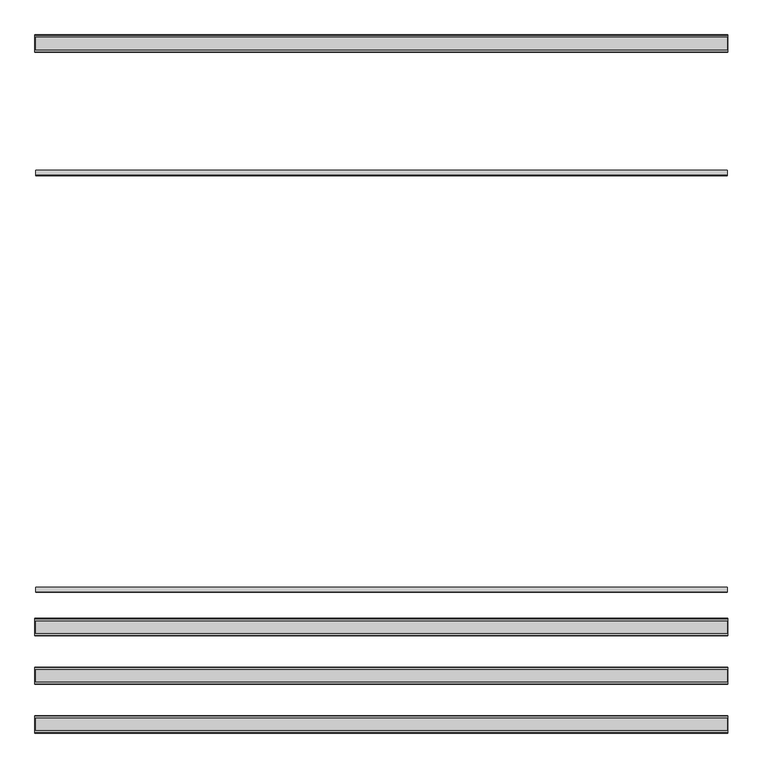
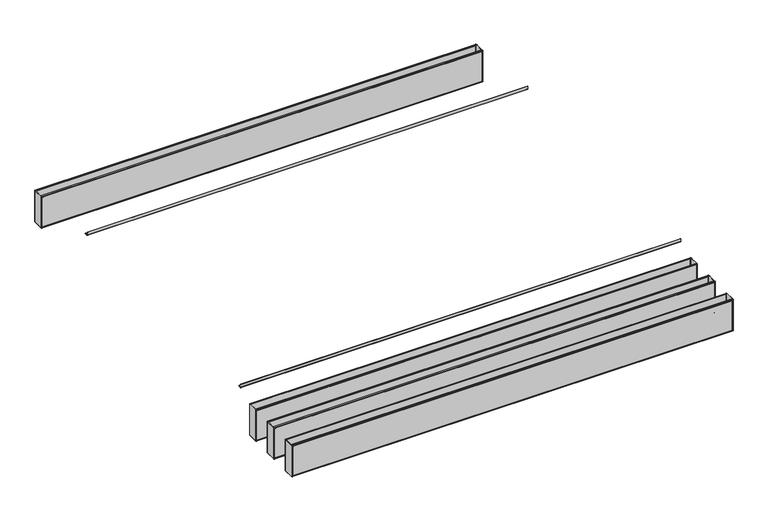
"""IFC4 building model written with IfcOpenShell, lengths in millimetres: proxy geometry, durlum_POLYLAM_KS : durlum_POLYLAM-KS/-S 100."""

from ifc_helpers import new_model, si_unit, point, frame, frame_2d, origin, place, context, project, spatial, polyline, circle_curve, trimmed, segment, composite_curve, outline, extrude, source, transform, mapped, element, save
from ifc_brep_helpers import plane_surface, cylinder_surface, advanced_brep


def generic_models_bf59cfc3(model_context):
    return source(origin(), model_context, "Body", "SolidModel", [
        extrude(outline(polyline([(1986.5, -1351.0), (-1986.5, -1351.0), (-1986.5, -1350.0), (1986.5, -1350.0), (1986.5, -1351.0)])), frame((0.0, 0.0, 2463.4464286), z_axis=(0.0, 0.0, 1.0), x_axis=(1.0, 0.0, 0.0)), (0.0, 0.0, 1.0), 283.0),
        extrude(outline(polyline([(1986.5, -1450.0), (-1986.5, -1450.0), (-1986.5, -1449.0), (1986.5, -1449.0), (1986.5, -1450.0)])), frame((0.0, 0.0, 2463.4464286), z_axis=(0.0, 0.0, 1.0), x_axis=(1.0, 0.0, 0.0)), (0.0, 0.0, 1.0), 283.0),
        extrude(outline(polyline([(1993.0, -1351.0), (1995.0, -1351.0), (1995.0, -1449.0), (1993.0, -1449.0), (1993.0, -1351.0)])), frame((0.0, 0.0, 2455.9464286), z_axis=(0.0, 0.0, 1.0), x_axis=(1.0, 0.0, 0.0)), (0.0, 0.0, 1.0), 298.1604454),
        extrude(outline(polyline([(-1995.0, -1351.0), (-1993.0, -1351.0), (-1993.0, -1449.0), (-1995.0, -1449.0), (-1995.0, -1351.0)])), frame((0.0, 0.0, 2455.9464286), z_axis=(0.0, 0.0, 1.0), x_axis=(1.0, 0.0, 0.0)), (0.0, 0.0, 1.0), 298.1604454),
        advanced_brep(
        [(1995.0, -1352.0, 2754.9464286), (1995.0, -1362.0, 2754.9464286), (1995.0, -1362.0, 2754.106874), (1995.0, -1351.0, 2754.106874), (1995.0, -1351.0, 2455.9464286), (1995.0, -1449.0, 2455.9464286), (1995.0, -1449.0, 2753.8620021), (1995.0, -1438.0, 2753.8620021), (1995.0, -1438.0, 2754.9464286), (1995.0, -1448.0, 2754.9464286), (1995.0, -1450.0, 2752.9464286), (1995.0, -1450.0, 2456.9464286), (1995.0, -1448.0, 2454.9464286), (1995.0, -1352.0, 2454.9464286), (1995.0, -1350.0, 2456.9464286), (1995.0, -1350.0, 2752.9464286), (-1995.0, -1352.0, 2754.9464286), (-1995.0, -1350.0, 2752.9464286), (-1995.0, -1350.0, 2456.9464286), (-1995.0, -1352.0, 2454.9464286), (-1995.0, -1448.0, 2454.9464286), (-1995.0, -1450.0, 2456.9464286), (-1995.0, -1450.0, 2752.9464286), (-1995.0, -1448.0, 2754.9464286), (-1995.0, -1438.0, 2754.9464286), (-1995.0, -1438.0, 2753.8620021), (-1995.0, -1449.0, 2753.8620021), (-1995.0, -1449.0, 2455.9464286), (-1995.0, -1351.0, 2455.9464286), (-1995.0, -1351.0, 2754.106874), (-1995.0, -1362.0, 2754.106874), (-1995.0, -1362.0, 2754.9464286), (-1986.5, -1351.0, 2746.4464286), (1986.5, -1351.0, 2746.4464286), (1986.5, -1351.0, 2463.4464286), (-1986.5, -1351.0, 2463.4464286), (1986.5, -1449.0, 2746.4464286), (-1986.5, -1449.0, 2746.4464286), (-1986.5, -1449.0, 2463.4464286), (1986.5, -1449.0, 2463.4464286), (-1986.5, -1450.0, 2746.4464286), (1986.5, -1450.0, 2746.4464286), (1986.5, -1450.0, 2463.4464286), (-1986.5, -1450.0, 2463.4464286), (1986.5, -1350.0, 2746.4464286), (-1986.5, -1350.0, 2746.4464286), (-1986.5, -1350.0, 2463.4464286), (1986.5, -1350.0, 2463.4464286)],
        [
            (0, 1),
            (1, 2),
            (2, 3),
            (3, 4),
            (4, 5),
            (5, 6),
            (6, 7),
            (7, 8),
            (8, 9),
            (9, 10, circle_curve(frame((1995.0, -1448.0, 2752.9464286), z_axis=(1.0, 0.0, 0.0), x_axis=(0.0, 1.0, 0.0)), 2.0)),
            (10, 11),
            (11, 12, circle_curve(frame((1995.0, -1448.0, 2456.9464286), z_axis=(1.0, 0.0, 0.0), x_axis=(0.0, 1.0, 0.0)), 2.0)),
            (12, 13),
            (13, 14, circle_curve(frame((1995.0, -1352.0, 2456.9464286), z_axis=(1.0, 0.0, 0.0), x_axis=(0.0, 1.0, 0.0)), 2.0)),
            (14, 15),
            (15, 0, circle_curve(frame((1995.0, -1352.0, 2752.9464286), z_axis=(1.0, 0.0, 0.0), x_axis=(0.0, 1.0, 0.0)), 2.0)),
            (16, 17, circle_curve(frame((-1995.0, -1352.0, 2752.9464286), z_axis=(-1.0, 0.0, 0.0), x_axis=(0.0, 1.0, 0.0)), 2.0)),
            (17, 18),
            (18, 19, circle_curve(frame((-1995.0, -1352.0, 2456.9464286), z_axis=(-1.0, 0.0, 0.0), x_axis=(0.0, 1.0, 0.0)), 2.0)),
            (19, 20),
            (20, 21, circle_curve(frame((-1995.0, -1448.0, 2456.9464286), z_axis=(-1.0, 0.0, 0.0), x_axis=(0.0, 1.0, 0.0)), 2.0)),
            (21, 22),
            (22, 23, circle_curve(frame((-1995.0, -1448.0, 2752.9464286), z_axis=(-1.0, 0.0, 0.0), x_axis=(0.0, 1.0, 0.0)), 2.0)),
            (23, 24),
            (24, 25),
            (25, 26),
            (26, 27),
            (27, 28),
            (28, 29),
            (29, 30),
            (30, 31),
            (31, 16),
            (0, 16),
            (31, 1),
            (30, 2),
            (29, 3),
            (28, 4),
            (32, 33),
            (33, 34),
            (34, 35),
            (35, 32),
            (27, 5),
            (26, 6),
            (36, 37),
            (37, 38),
            (38, 39),
            (39, 36),
            (25, 7),
            (24, 8),
            (23, 9),
            (10, 22),
            (21, 11),
            (40, 41),
            (41, 42),
            (42, 43),
            (43, 40),
            (12, 20),
            (19, 13),
            (14, 18),
            (17, 15),
            (44, 45),
            (45, 46),
            (46, 47),
            (47, 44),
            (44, 33),
            (32, 45),
            (36, 41),
            (40, 37),
            (35, 46),
            (43, 38),
            (34, 47),
            (42, 39),
        ],
        [
            plane_surface(frame((1995.0, -1362.0, 2754.9464286), z_axis=(1.0, 0.0, 0.0), x_axis=(0.0, -1.0, 0.0))),
            plane_surface(frame((-1995.0, -1362.0, 2754.9464286), z_axis=(-1.0, 0.0, 0.0), x_axis=(0.0, 1.0, 0.0))),
            plane_surface(frame((1995.0, -1352.0, 2754.9464286), z_axis=(0.0, 0.0, 1.0), x_axis=(-1.0, 0.0, 0.0))),
            plane_surface(frame((1995.0, -1362.0, 2754.9464286), z_axis=(0.0, -1.0, 0.0), x_axis=(-1.0, 0.0, 0.0))),
            plane_surface(frame((1995.0, -1362.0, 2754.106874), z_axis=(0.0, 0.0, -1.0), x_axis=(-1.0, 0.0, 0.0))),
            plane_surface(frame((1995.0, -1351.0, 2754.106874), z_axis=(0.0, -1.0, 0.0), x_axis=(-1.0, 0.0, 0.0))),
            plane_surface(frame((1995.0, -1351.0, 2455.9464286), z_axis=(0.0, 0.0, 1.0), x_axis=(-1.0, 0.0, 0.0))),
            plane_surface(frame((1995.0, -1449.0, 2455.9464286), z_axis=(0.0, 1.0, 0.0), x_axis=(-1.0, 0.0, 0.0))),
            plane_surface(frame((1995.0, -1449.0, 2753.8620021), z_axis=(0.0, 0.0, -1.0), x_axis=(-1.0, 0.0, 0.0))),
            plane_surface(frame((1995.0, -1438.0, 2753.8620021), z_axis=(0.0, 1.0, 0.0), x_axis=(-1.0, 0.0, 0.0))),
            plane_surface(frame((1995.0, -1438.0, 2754.9464286), z_axis=(0.0, 0.0, 1.0), x_axis=(-1.0, 0.0, 0.0))),
            plane_surface(frame((1995.0, -1450.0, 2752.9464286), z_axis=(0.0, -1.0, 0.0), x_axis=(-1.0, 0.0, 0.0))),
            plane_surface(frame((1995.0, -1448.0, 2454.9464286), z_axis=(0.0, 0.0, -1.0), x_axis=(-1.0, 0.0, 0.0))),
            plane_surface(frame((1995.0, -1350.0, 2456.9464286), z_axis=(0.0, 1.0, 0.0), x_axis=(-1.0, 0.0, 0.0))),
            cylinder_surface(frame((-1995.0, -1448.0, 2752.9464286), z_axis=(1.0, 0.0, 0.0), x_axis=(0.0, 1.0, 0.0)), 2.0),
            cylinder_surface(frame((-1995.0, -1448.0, 2456.9464286), z_axis=(1.0, 0.0, 0.0), x_axis=(0.0, 1.0, 0.0)), 2.0),
            cylinder_surface(frame((-1995.0, -1352.0, 2456.9464286), z_axis=(1.0, 0.0, 0.0), x_axis=(0.0, 1.0, 0.0)), 2.0),
            cylinder_surface(frame((-1995.0, -1352.0, 2752.9464286), z_axis=(1.0, 0.0, 0.0), x_axis=(0.0, 1.0, 0.0)), 2.0),
            plane_surface(frame((1986.5, -1450.0, 2746.4464286), z_axis=(0.0, 0.0, -1.0), x_axis=(0.0, 1.0, 0.0))),
            plane_surface(frame((-1986.5, -1450.0, 2746.4464286), z_axis=(1.0, 0.0, 0.0), x_axis=(0.0, 1.0, 0.0))),
            plane_surface(frame((-1986.5, -1450.0, 2463.4464286), z_axis=(0.0, 0.0, 1.0), x_axis=(0.0, 1.0, 0.0))),
            plane_surface(frame((1986.5, -1450.0, 2463.4464286), z_axis=(-1.0, 0.0, 0.0), x_axis=(0.0, 1.0, 0.0))),
        ],
        [
            (0, [[1, 2, 3, 4, 5, 6, 7, 8, 9, 10, 11, 12, 13, 14, 15, 16]]),
            (1, [[17, 18, 19, 20, 21, 22, 23, 24, 25, 26, 27, 28, 29, 30, 31, 32]]),
            (2, [[-1, 33, -32, 34]]),
            (3, [[-2, -34, -31, 35]]),
            (4, [[-3, -35, -30, 36]]),
            (5, [[-4, -36, -29, 37], [38, 39, 40, 41]]),
            (6, [[-5, -37, -28, 42]]),
            (7, [[-6, -42, -27, 43], [44, 45, 46, 47]]),
            (8, [[-7, -43, -26, 48]]),
            (9, [[-8, -48, -25, 49]]),
            (10, [[-9, -49, -24, 50]]),
            (11, [[-11, 51, -22, 52], [53, 54, 55, 56]]),
            (12, [[-13, 57, -20, 58]]),
            (13, [[-15, 59, -18, 60], [61, 62, 63, 64]]),
            (14, [[-10, -50, -23, -51]]),
            (15, [[-12, -52, -21, -57]]),
            (16, [[-14, -58, -19, -59]]),
            (17, [[-16, -60, -17, -33]]),
            (18, [[65, -38, 66, -61]]),
            (18, [[67, -53, 68, -44]]),
            (19, [[-66, -41, 69, -62]]),
            (19, [[-68, -56, 70, -45]]),
            (20, [[-69, -40, 71, -63]]),
            (20, [[-70, -55, 72, -46]]),
            (21, [[-65, -64, -71, -39]]),
            (21, [[-67, -47, -72, -54]]),
        ],
    ),
        extrude(outline(polyline([(1986.5, -1631.0), (-1986.5, -1631.0), (-1986.5, -1630.0), (1986.5, -1630.0), (1986.5, -1631.0)])), frame((0.0, 0.0, 2463.4464286), z_axis=(0.0, 0.0, 1.0), x_axis=(1.0, 0.0, 0.0)), (0.0, 0.0, 1.0), 283.0),
        extrude(outline(polyline([(1986.5, -1730.0), (-1986.5, -1730.0), (-1986.5, -1729.0), (1986.5, -1729.0), (1986.5, -1730.0)])), frame((0.0, 0.0, 2463.4464286), z_axis=(0.0, 0.0, 1.0), x_axis=(1.0, 0.0, 0.0)), (0.0, 0.0, 1.0), 283.0),
        extrude(outline(polyline([(1993.0, -1631.0), (1995.0, -1631.0), (1995.0, -1729.0), (1993.0, -1729.0), (1993.0, -1631.0)])), frame((0.0, 0.0, 2455.9464286), z_axis=(0.0, 0.0, 1.0), x_axis=(1.0, 0.0, 0.0)), (0.0, 0.0, 1.0), 298.1604454),
        extrude(outline(polyline([(-1995.0, -1631.0), (-1993.0, -1631.0), (-1993.0, -1729.0), (-1995.0, -1729.0), (-1995.0, -1631.0)])), frame((0.0, 0.0, 2455.9464286), z_axis=(0.0, 0.0, 1.0), x_axis=(1.0, 0.0, 0.0)), (0.0, 0.0, 1.0), 298.1604454),
        advanced_brep(
        [(1995.0, -1632.0, 2754.9464286), (1995.0, -1642.0, 2754.9464286), (1995.0, -1642.0, 2754.106874), (1995.0, -1631.0, 2754.106874), (1995.0, -1631.0, 2455.9464286), (1995.0, -1729.0, 2455.9464286), (1995.0, -1729.0, 2753.8620021), (1995.0, -1718.0, 2753.8620021), (1995.0, -1718.0, 2754.9464286), (1995.0, -1728.0, 2754.9464286), (1995.0, -1730.0, 2752.9464286), (1995.0, -1730.0, 2456.9464286), (1995.0, -1728.0, 2454.9464286), (1995.0, -1632.0, 2454.9464286), (1995.0, -1630.0, 2456.9464286), (1995.0, -1630.0, 2752.9464286), (-1995.0, -1632.0, 2754.9464286), (-1995.0, -1630.0, 2752.9464286), (-1995.0, -1630.0, 2456.9464286), (-1995.0, -1632.0, 2454.9464286), (-1995.0, -1728.0, 2454.9464286), (-1995.0, -1730.0, 2456.9464286), (-1995.0, -1730.0, 2752.9464286), (-1995.0, -1728.0, 2754.9464286), (-1995.0, -1718.0, 2754.9464286), (-1995.0, -1718.0, 2753.8620021), (-1995.0, -1729.0, 2753.8620021), (-1995.0, -1729.0, 2455.9464286), (-1995.0, -1631.0, 2455.9464286), (-1995.0, -1631.0, 2754.106874), (-1995.0, -1642.0, 2754.106874), (-1995.0, -1642.0, 2754.9464286), (-1986.5, -1631.0, 2746.4464286), (1986.5, -1631.0, 2746.4464286), (1986.5, -1631.0, 2463.4464286), (-1986.5, -1631.0, 2463.4464286), (1986.5, -1729.0, 2746.4464286), (-1986.5, -1729.0, 2746.4464286), (-1986.5, -1729.0, 2463.4464286), (1986.5, -1729.0, 2463.4464286), (-1986.5, -1730.0, 2746.4464286), (1986.5, -1730.0, 2746.4464286), (1986.5, -1730.0, 2463.4464286), (-1986.5, -1730.0, 2463.4464286), (1986.5, -1630.0, 2746.4464286), (-1986.5, -1630.0, 2746.4464286), (-1986.5, -1630.0, 2463.4464286), (1986.5, -1630.0, 2463.4464286)],
        [
            (0, 1),
            (1, 2),
            (2, 3),
            (3, 4),
            (4, 5),
            (5, 6),
            (6, 7),
            (7, 8),
            (8, 9),
            (9, 10, circle_curve(frame((1995.0, -1728.0, 2752.9464286), z_axis=(1.0, 0.0, 0.0), x_axis=(0.0, 1.0, 0.0)), 2.0)),
            (10, 11),
            (11, 12, circle_curve(frame((1995.0, -1728.0, 2456.9464286), z_axis=(1.0, 0.0, 0.0), x_axis=(0.0, 1.0, 0.0)), 2.0)),
            (12, 13),
            (13, 14, circle_curve(frame((1995.0, -1632.0, 2456.9464286), z_axis=(1.0, 0.0, 0.0), x_axis=(0.0, 1.0, 0.0)), 2.0)),
            (14, 15),
            (15, 0, circle_curve(frame((1995.0, -1632.0, 2752.9464286), z_axis=(1.0, 0.0, 0.0), x_axis=(0.0, 1.0, 0.0)), 2.0)),
            (16, 17, circle_curve(frame((-1995.0, -1632.0, 2752.9464286), z_axis=(-1.0, 0.0, 0.0), x_axis=(0.0, 1.0, 0.0)), 2.0)),
            (17, 18),
            (18, 19, circle_curve(frame((-1995.0, -1632.0, 2456.9464286), z_axis=(-1.0, 0.0, 0.0), x_axis=(0.0, 1.0, 0.0)), 2.0)),
            (19, 20),
            (20, 21, circle_curve(frame((-1995.0, -1728.0, 2456.9464286), z_axis=(-1.0, 0.0, 0.0), x_axis=(0.0, 1.0, 0.0)), 2.0)),
            (21, 22),
            (22, 23, circle_curve(frame((-1995.0, -1728.0, 2752.9464286), z_axis=(-1.0, 0.0, 0.0), x_axis=(0.0, 1.0, 0.0)), 2.0)),
            (23, 24),
            (24, 25),
            (25, 26),
            (26, 27),
            (27, 28),
            (28, 29),
            (29, 30),
            (30, 31),
            (31, 16),
            (0, 16),
            (31, 1),
            (30, 2),
            (29, 3),
            (28, 4),
            (32, 33),
            (33, 34),
            (34, 35),
            (35, 32),
            (27, 5),
            (26, 6),
            (36, 37),
            (37, 38),
            (38, 39),
            (39, 36),
            (25, 7),
            (24, 8),
            (23, 9),
            (10, 22),
            (21, 11),
            (40, 41),
            (41, 42),
            (42, 43),
            (43, 40),
            (12, 20),
            (19, 13),
            (14, 18),
            (17, 15),
            (44, 45),
            (45, 46),
            (46, 47),
            (47, 44),
            (44, 33),
            (32, 45),
            (36, 41),
            (40, 37),
            (35, 46),
            (43, 38),
            (34, 47),
            (42, 39),
        ],
        [
            plane_surface(frame((1995.0, -1642.0, 2754.9464286), z_axis=(1.0, 0.0, 0.0), x_axis=(0.0, -1.0, 0.0))),
            plane_surface(frame((-1995.0, -1642.0, 2754.9464286), z_axis=(-1.0, 0.0, 0.0), x_axis=(0.0, 1.0, 0.0))),
            plane_surface(frame((1995.0, -1632.0, 2754.9464286), z_axis=(0.0, 0.0, 1.0), x_axis=(-1.0, 0.0, 0.0))),
            plane_surface(frame((1995.0, -1642.0, 2754.9464286), z_axis=(0.0, -1.0, 0.0), x_axis=(-1.0, 0.0, 0.0))),
            plane_surface(frame((1995.0, -1642.0, 2754.106874), z_axis=(0.0, 0.0, -1.0), x_axis=(-1.0, 0.0, 0.0))),
            plane_surface(frame((1995.0, -1631.0, 2754.106874), z_axis=(0.0, -1.0, 0.0), x_axis=(-1.0, 0.0, 0.0))),
            plane_surface(frame((1995.0, -1631.0, 2455.9464286), z_axis=(0.0, 0.0, 1.0), x_axis=(-1.0, 0.0, 0.0))),
            plane_surface(frame((1995.0, -1729.0, 2455.9464286), z_axis=(0.0, 1.0, 0.0), x_axis=(-1.0, 0.0, 0.0))),
            plane_surface(frame((1995.0, -1729.0, 2753.8620021), z_axis=(0.0, 0.0, -1.0), x_axis=(-1.0, 0.0, 0.0))),
            plane_surface(frame((1995.0, -1718.0, 2753.8620021), z_axis=(0.0, 1.0, 0.0), x_axis=(-1.0, 0.0, 0.0))),
            plane_surface(frame((1995.0, -1718.0, 2754.9464286), z_axis=(0.0, 0.0, 1.0), x_axis=(-1.0, 0.0, 0.0))),
            plane_surface(frame((1995.0, -1730.0, 2752.9464286), z_axis=(0.0, -1.0, 0.0), x_axis=(-1.0, 0.0, 0.0))),
            plane_surface(frame((1995.0, -1728.0, 2454.9464286), z_axis=(0.0, 0.0, -1.0), x_axis=(-1.0, 0.0, 0.0))),
            plane_surface(frame((1995.0, -1630.0, 2456.9464286), z_axis=(0.0, 1.0, 0.0), x_axis=(-1.0, 0.0, 0.0))),
            cylinder_surface(frame((-1995.0, -1728.0, 2752.9464286), z_axis=(1.0, 0.0, 0.0), x_axis=(0.0, 1.0, 0.0)), 2.0),
            cylinder_surface(frame((-1995.0, -1728.0, 2456.9464286), z_axis=(1.0, 0.0, 0.0), x_axis=(0.0, 1.0, 0.0)), 2.0),
            cylinder_surface(frame((-1995.0, -1632.0, 2456.9464286), z_axis=(1.0, 0.0, 0.0), x_axis=(0.0, 1.0, 0.0)), 2.0),
            cylinder_surface(frame((-1995.0, -1632.0, 2752.9464286), z_axis=(1.0, 0.0, 0.0), x_axis=(0.0, 1.0, 0.0)), 2.0),
            plane_surface(frame((1986.5, -1730.0, 2746.4464286), z_axis=(0.0, 0.0, -1.0), x_axis=(0.0, 1.0, 0.0))),
            plane_surface(frame((-1986.5, -1730.0, 2746.4464286), z_axis=(1.0, 0.0, 0.0), x_axis=(0.0, 1.0, 0.0))),
            plane_surface(frame((-1986.5, -1730.0, 2463.4464286), z_axis=(0.0, 0.0, 1.0), x_axis=(0.0, 1.0, 0.0))),
            plane_surface(frame((1986.5, -1730.0, 2463.4464286), z_axis=(-1.0, 0.0, 0.0), x_axis=(0.0, 1.0, 0.0))),
        ],
        [
            (0, [[1, 2, 3, 4, 5, 6, 7, 8, 9, 10, 11, 12, 13, 14, 15, 16]]),
            (1, [[17, 18, 19, 20, 21, 22, 23, 24, 25, 26, 27, 28, 29, 30, 31, 32]]),
            (2, [[-1, 33, -32, 34]]),
            (3, [[-2, -34, -31, 35]]),
            (4, [[-3, -35, -30, 36]]),
            (5, [[-4, -36, -29, 37], [38, 39, 40, 41]]),
            (6, [[-5, -37, -28, 42]]),
            (7, [[-6, -42, -27, 43], [44, 45, 46, 47]]),
            (8, [[-7, -43, -26, 48]]),
            (9, [[-8, -48, -25, 49]]),
            (10, [[-9, -49, -24, 50]]),
            (11, [[-11, 51, -22, 52], [53, 54, 55, 56]]),
            (12, [[-13, 57, -20, 58]]),
            (13, [[-15, 59, -18, 60], [61, 62, 63, 64]]),
            (14, [[-10, -50, -23, -51]]),
            (15, [[-12, -52, -21, -57]]),
            (16, [[-14, -58, -19, -59]]),
            (17, [[-16, -60, -17, -33]]),
            (18, [[65, -38, 66, -61]]),
            (18, [[67, -53, 68, -44]]),
            (19, [[-66, -41, 69, -62]]),
            (19, [[-68, -56, 70, -45]]),
            (20, [[-69, -40, 71, -63]]),
            (20, [[-70, -55, 72, -46]]),
            (21, [[-65, -64, -71, -39]]),
            (21, [[-67, -47, -72, -54]]),
        ],
    ),
        extrude(outline(polyline([(1986.5, 2009.0), (-1986.5, 2009.0), (-1986.5, 2010.0), (1986.5, 2010.0), (1986.5, 2009.0)])), frame((0.0, 0.0, 2463.4464286), z_axis=(0.0, 0.0, 1.0), x_axis=(1.0, 0.0, 0.0)), (0.0, 0.0, 1.0), 283.0),
        extrude(outline(polyline([(1986.5, 1910.0), (-1986.5, 1910.0), (-1986.5, 1911.0), (1986.5, 1911.0), (1986.5, 1910.0)])), frame((0.0, 0.0, 2463.4464286), z_axis=(0.0, 0.0, 1.0), x_axis=(1.0, 0.0, 0.0)), (0.0, 0.0, 1.0), 283.0),
        extrude(outline(polyline([(1993.0, 2009.0), (1995.0, 2009.0), (1995.0, 1911.0), (1993.0, 1911.0), (1993.0, 2009.0)])), frame((0.0, 0.0, 2455.9464286), z_axis=(0.0, 0.0, 1.0), x_axis=(1.0, 0.0, 0.0)), (0.0, 0.0, 1.0), 298.1604454),
        extrude(outline(polyline([(-1995.0, 2009.0), (-1993.0, 2009.0), (-1993.0, 1911.0), (-1995.0, 1911.0), (-1995.0, 2009.0)])), frame((0.0, 0.0, 2455.9464286), z_axis=(0.0, 0.0, 1.0), x_axis=(1.0, 0.0, 0.0)), (0.0, 0.0, 1.0), 298.1604454),
        advanced_brep(
        [(1995.0, 2008.0, 2754.9464286), (1995.0, 1998.0, 2754.9464286), (1995.0, 1998.0, 2754.106874), (1995.0, 2009.0, 2754.106874), (1995.0, 2009.0, 2455.9464286), (1995.0, 1911.0, 2455.9464286), (1995.0, 1911.0, 2753.8620021), (1995.0, 1922.0, 2753.8620021), (1995.0, 1922.0, 2754.9464286), (1995.0, 1912.0, 2754.9464286), (1995.0, 1910.0, 2752.9464286), (1995.0, 1910.0, 2456.9464286), (1995.0, 1912.0, 2454.9464286), (1995.0, 2008.0, 2454.9464286), (1995.0, 2010.0, 2456.9464286), (1995.0, 2010.0, 2752.9464286), (-1995.0, 2008.0, 2754.9464286), (-1995.0, 2010.0, 2752.9464286), (-1995.0, 2010.0, 2456.9464286), (-1995.0, 2008.0, 2454.9464286), (-1995.0, 1912.0, 2454.9464286), (-1995.0, 1910.0, 2456.9464286), (-1995.0, 1910.0, 2752.9464286), (-1995.0, 1912.0, 2754.9464286), (-1995.0, 1922.0, 2754.9464286), (-1995.0, 1922.0, 2753.8620021), (-1995.0, 1911.0, 2753.8620021), (-1995.0, 1911.0, 2455.9464286), (-1995.0, 2009.0, 2455.9464286), (-1995.0, 2009.0, 2754.106874), (-1995.0, 1998.0, 2754.106874), (-1995.0, 1998.0, 2754.9464286), (-1986.5, 2009.0, 2746.4464286), (1986.5, 2009.0, 2746.4464286), (1986.5, 2009.0, 2463.4464286), (-1986.5, 2009.0, 2463.4464286), (1986.5, 1911.0, 2746.4464286), (-1986.5, 1911.0, 2746.4464286), (-1986.5, 1911.0, 2463.4464286), (1986.5, 1911.0, 2463.4464286), (-1986.5, 1910.0, 2746.4464286), (1986.5, 1910.0, 2746.4464286), (1986.5, 1910.0, 2463.4464286), (-1986.5, 1910.0, 2463.4464286), (1986.5, 2010.0, 2746.4464286), (-1986.5, 2010.0, 2746.4464286), (-1986.5, 2010.0, 2463.4464286), (1986.5, 2010.0, 2463.4464286)],
        [
            (0, 1),
            (1, 2),
            (2, 3),
            (3, 4),
            (4, 5),
            (5, 6),
            (6, 7),
            (7, 8),
            (8, 9),
            (9, 10, circle_curve(frame((1995.0, 1912.0, 2752.9464286), z_axis=(1.0, 0.0, 0.0), x_axis=(0.0, 1.0, 0.0)), 2.0)),
            (10, 11),
            (11, 12, circle_curve(frame((1995.0, 1912.0, 2456.9464286), z_axis=(1.0, 0.0, 0.0), x_axis=(0.0, 1.0, 0.0)), 2.0)),
            (12, 13),
            (13, 14, circle_curve(frame((1995.0, 2008.0, 2456.9464286), z_axis=(1.0, 0.0, 0.0), x_axis=(0.0, 1.0, 0.0)), 2.0)),
            (14, 15),
            (15, 0, circle_curve(frame((1995.0, 2008.0, 2752.9464286), z_axis=(1.0, 0.0, 0.0), x_axis=(0.0, 1.0, 0.0)), 2.0)),
            (16, 17, circle_curve(frame((-1995.0, 2008.0, 2752.9464286), z_axis=(-1.0, 0.0, 0.0), x_axis=(0.0, 1.0, 0.0)), 2.0)),
            (17, 18),
            (18, 19, circle_curve(frame((-1995.0, 2008.0, 2456.9464286), z_axis=(-1.0, 0.0, 0.0), x_axis=(0.0, 1.0, 0.0)), 2.0)),
            (19, 20),
            (20, 21, circle_curve(frame((-1995.0, 1912.0, 2456.9464286), z_axis=(-1.0, 0.0, 0.0), x_axis=(0.0, 1.0, 0.0)), 2.0)),
            (21, 22),
            (22, 23, circle_curve(frame((-1995.0, 1912.0, 2752.9464286), z_axis=(-1.0, 0.0, 0.0), x_axis=(0.0, 1.0, 0.0)), 2.0)),
            (23, 24),
            (24, 25),
            (25, 26),
            (26, 27),
            (27, 28),
            (28, 29),
            (29, 30),
            (30, 31),
            (31, 16),
            (0, 16),
            (31, 1),
            (30, 2),
            (29, 3),
            (28, 4),
            (32, 33),
            (33, 34),
            (34, 35),
            (35, 32),
            (27, 5),
            (26, 6),
            (36, 37),
            (37, 38),
            (38, 39),
            (39, 36),
            (25, 7),
            (24, 8),
            (23, 9),
            (10, 22),
            (21, 11),
            (40, 41),
            (41, 42),
            (42, 43),
            (43, 40),
            (12, 20),
            (19, 13),
            (14, 18),
            (17, 15),
            (44, 45),
            (45, 46),
            (46, 47),
            (47, 44),
            (44, 33),
            (32, 45),
            (36, 41),
            (40, 37),
            (35, 46),
            (43, 38),
            (34, 47),
            (42, 39),
        ],
        [
            plane_surface(frame((1995.0, 1998.0, 2754.9464286), z_axis=(1.0, 0.0, 0.0), x_axis=(0.0, -1.0, 0.0))),
            plane_surface(frame((-1995.0, 1998.0, 2754.9464286), z_axis=(-1.0, 0.0, 0.0), x_axis=(0.0, 1.0, 0.0))),
            plane_surface(frame((1995.0, 2008.0, 2754.9464286), z_axis=(0.0, 0.0, 1.0), x_axis=(-1.0, 0.0, 0.0))),
            plane_surface(frame((1995.0, 1998.0, 2754.9464286), z_axis=(0.0, -1.0, 0.0), x_axis=(-1.0, 0.0, 0.0))),
            plane_surface(frame((1995.0, 1998.0, 2754.106874), z_axis=(0.0, 0.0, -1.0), x_axis=(-1.0, 0.0, 0.0))),
            plane_surface(frame((1995.0, 2009.0, 2754.106874), z_axis=(0.0, -1.0, 0.0), x_axis=(-1.0, 0.0, 0.0))),
            plane_surface(frame((1995.0, 2009.0, 2455.9464286), z_axis=(0.0, 0.0, 1.0), x_axis=(-1.0, 0.0, 0.0))),
            plane_surface(frame((1995.0, 1911.0, 2455.9464286), z_axis=(0.0, 1.0, 0.0), x_axis=(-1.0, 0.0, 0.0))),
            plane_surface(frame((1995.0, 1911.0, 2753.8620021), z_axis=(0.0, 0.0, -1.0), x_axis=(-1.0, 0.0, 0.0))),
            plane_surface(frame((1995.0, 1922.0, 2753.8620021), z_axis=(0.0, 1.0, 0.0), x_axis=(-1.0, 0.0, 0.0))),
            plane_surface(frame((1995.0, 1922.0, 2754.9464286), z_axis=(0.0, 0.0, 1.0), x_axis=(-1.0, 0.0, 0.0))),
            plane_surface(frame((1995.0, 1910.0, 2752.9464286), z_axis=(0.0, -1.0, 0.0), x_axis=(-1.0, 0.0, 0.0))),
            plane_surface(frame((1995.0, 1912.0, 2454.9464286), z_axis=(0.0, 0.0, -1.0), x_axis=(-1.0, 0.0, 0.0))),
            plane_surface(frame((1995.0, 2010.0, 2456.9464286), z_axis=(0.0, 1.0, 0.0), x_axis=(-1.0, 0.0, 0.0))),
            cylinder_surface(frame((-1995.0, 1912.0, 2752.9464286), z_axis=(1.0, 0.0, 0.0), x_axis=(0.0, 1.0, 0.0)), 2.0),
            cylinder_surface(frame((-1995.0, 1912.0, 2456.9464286), z_axis=(1.0, 0.0, 0.0), x_axis=(0.0, 1.0, 0.0)), 2.0),
            cylinder_surface(frame((-1995.0, 2008.0, 2456.9464286), z_axis=(1.0, 0.0, 0.0), x_axis=(0.0, 1.0, 0.0)), 2.0),
            cylinder_surface(frame((-1995.0, 2008.0, 2752.9464286), z_axis=(1.0, 0.0, 0.0), x_axis=(0.0, 1.0, 0.0)), 2.0),
            plane_surface(frame((1986.5, 1910.0, 2746.4464286), z_axis=(0.0, 0.0, -1.0), x_axis=(0.0, 1.0, 0.0))),
            plane_surface(frame((-1986.5, 1910.0, 2746.4464286), z_axis=(1.0, 0.0, 0.0), x_axis=(0.0, 1.0, 0.0))),
            plane_surface(frame((-1986.5, 1910.0, 2463.4464286), z_axis=(0.0, 0.0, 1.0), x_axis=(0.0, 1.0, 0.0))),
            plane_surface(frame((1986.5, 1910.0, 2463.4464286), z_axis=(-1.0, 0.0, 0.0), x_axis=(0.0, 1.0, 0.0))),
        ],
        [
            (0, [[1, 2, 3, 4, 5, 6, 7, 8, 9, 10, 11, 12, 13, 14, 15, 16]]),
            (1, [[17, 18, 19, 20, 21, 22, 23, 24, 25, 26, 27, 28, 29, 30, 31, 32]]),
            (2, [[-1, 33, -32, 34]]),
            (3, [[-2, -34, -31, 35]]),
            (4, [[-3, -35, -30, 36]]),
            (5, [[-4, -36, -29, 37], [38, 39, 40, 41]]),
            (6, [[-5, -37, -28, 42]]),
            (7, [[-6, -42, -27, 43], [44, 45, 46, 47]]),
            (8, [[-7, -43, -26, 48]]),
            (9, [[-8, -48, -25, 49]]),
            (10, [[-9, -49, -24, 50]]),
            (11, [[-11, 51, -22, 52], [53, 54, 55, 56]]),
            (12, [[-13, 57, -20, 58]]),
            (13, [[-15, 59, -18, 60], [61, 62, 63, 64]]),
            (14, [[-10, -50, -23, -51]]),
            (15, [[-12, -52, -21, -57]]),
            (16, [[-14, -58, -19, -59]]),
            (17, [[-16, -60, -17, -33]]),
            (18, [[65, -38, 66, -61]]),
            (18, [[67, -53, 68, -44]]),
            (19, [[-66, -41, 69, -62]]),
            (19, [[-68, -56, 70, -45]]),
            (20, [[-69, -40, 71, -63]]),
            (20, [[-70, -55, 72, -46]]),
            (21, [[-65, -64, -71, -39]]),
            (21, [[-67, -47, -72, -54]]),
        ],
    ),
        extrude(outline(polyline([(1986.5, -1911.0), (-1986.5, -1911.0), (-1986.5, -1910.0), (1986.5, -1910.0), (1986.5, -1911.0)])), frame((0.0, 0.0, 2463.4464286), z_axis=(0.0, 0.0, 1.0), x_axis=(1.0, 0.0, 0.0)), (0.0, 0.0, 1.0), 283.0),
        extrude(outline(polyline([(1986.5, -2010.0), (-1986.5, -2010.0), (-1986.5, -2009.0), (1986.5, -2009.0), (1986.5, -2010.0)])), frame((0.0, 0.0, 2463.4464286), z_axis=(0.0, 0.0, 1.0), x_axis=(1.0, 0.0, 0.0)), (0.0, 0.0, 1.0), 283.0),
        extrude(outline(polyline([(1993.0, -1911.0), (1995.0, -1911.0), (1995.0, -2009.0), (1993.0, -2009.0), (1993.0, -1911.0)])), frame((0.0, 0.0, 2455.9464286), z_axis=(0.0, 0.0, 1.0), x_axis=(1.0, 0.0, 0.0)), (0.0, 0.0, 1.0), 298.1604454),
        extrude(outline(polyline([(-1995.0, -1911.0), (-1993.0, -1911.0), (-1993.0, -2009.0), (-1995.0, -2009.0), (-1995.0, -1911.0)])), frame((0.0, 0.0, 2455.9464286), z_axis=(0.0, 0.0, 1.0), x_axis=(1.0, 0.0, 0.0)), (0.0, 0.0, 1.0), 298.1604454),
        advanced_brep(
        [(1995.0, -1912.0, 2754.9464286), (1995.0, -1922.0, 2754.9464286), (1995.0, -1922.0, 2754.106874), (1995.0, -1911.0, 2754.106874), (1995.0, -1911.0, 2455.9464286), (1995.0, -2009.0, 2455.9464286), (1995.0, -2009.0, 2753.8620021), (1995.0, -1998.0, 2753.8620021), (1995.0, -1998.0, 2754.9464286), (1995.0, -2008.0, 2754.9464286), (1995.0, -2010.0, 2752.9464286), (1995.0, -2010.0, 2456.9464286), (1995.0, -2008.0, 2454.9464286), (1995.0, -1912.0, 2454.9464286), (1995.0, -1910.0, 2456.9464286), (1995.0, -1910.0, 2752.9464286), (-1995.0, -1912.0, 2754.9464286), (-1995.0, -1910.0, 2752.9464286), (-1995.0, -1910.0, 2456.9464286), (-1995.0, -1912.0, 2454.9464286), (-1995.0, -2008.0, 2454.9464286), (-1995.0, -2010.0, 2456.9464286), (-1995.0, -2010.0, 2752.9464286), (-1995.0, -2008.0, 2754.9464286), (-1995.0, -1998.0, 2754.9464286), (-1995.0, -1998.0, 2753.8620021), (-1995.0, -2009.0, 2753.8620021), (-1995.0, -2009.0, 2455.9464286), (-1995.0, -1911.0, 2455.9464286), (-1995.0, -1911.0, 2754.106874), (-1995.0, -1922.0, 2754.106874), (-1995.0, -1922.0, 2754.9464286), (-1986.5, -1911.0, 2746.4464286), (1986.5, -1911.0, 2746.4464286), (1986.5, -1911.0, 2463.4464286), (-1986.5, -1911.0, 2463.4464286), (1986.5, -2009.0, 2746.4464286), (-1986.5, -2009.0, 2746.4464286), (-1986.5, -2009.0, 2463.4464286), (1986.5, -2009.0, 2463.4464286), (-1986.5, -2010.0, 2746.4464286), (1986.5, -2010.0, 2746.4464286), (1986.5, -2010.0, 2463.4464286), (-1986.5, -2010.0, 2463.4464286), (1986.5, -1910.0, 2746.4464286), (-1986.5, -1910.0, 2746.4464286), (-1986.5, -1910.0, 2463.4464286), (1986.5, -1910.0, 2463.4464286)],
        [
            (0, 1),
            (1, 2),
            (2, 3),
            (3, 4),
            (4, 5),
            (5, 6),
            (6, 7),
            (7, 8),
            (8, 9),
            (9, 10, circle_curve(frame((1995.0, -2008.0, 2752.9464286), z_axis=(1.0, 0.0, 0.0), x_axis=(0.0, 1.0, 0.0)), 2.0)),
            (10, 11),
            (11, 12, circle_curve(frame((1995.0, -2008.0, 2456.9464286), z_axis=(1.0, 0.0, 0.0), x_axis=(0.0, 1.0, 0.0)), 2.0)),
            (12, 13),
            (13, 14, circle_curve(frame((1995.0, -1912.0, 2456.9464286), z_axis=(1.0, 0.0, 0.0), x_axis=(0.0, 1.0, 0.0)), 2.0)),
            (14, 15),
            (15, 0, circle_curve(frame((1995.0, -1912.0, 2752.9464286), z_axis=(1.0, 0.0, 0.0), x_axis=(0.0, 1.0, 0.0)), 2.0)),
            (16, 17, circle_curve(frame((-1995.0, -1912.0, 2752.9464286), z_axis=(-1.0, 0.0, 0.0), x_axis=(0.0, 1.0, 0.0)), 2.0)),
            (17, 18),
            (18, 19, circle_curve(frame((-1995.0, -1912.0, 2456.9464286), z_axis=(-1.0, 0.0, 0.0), x_axis=(0.0, 1.0, 0.0)), 2.0)),
            (19, 20),
            (20, 21, circle_curve(frame((-1995.0, -2008.0, 2456.9464286), z_axis=(-1.0, 0.0, 0.0), x_axis=(0.0, 1.0, 0.0)), 2.0)),
            (21, 22),
            (22, 23, circle_curve(frame((-1995.0, -2008.0, 2752.9464286), z_axis=(-1.0, 0.0, 0.0), x_axis=(0.0, 1.0, 0.0)), 2.0)),
            (23, 24),
            (24, 25),
            (25, 26),
            (26, 27),
            (27, 28),
            (28, 29),
            (29, 30),
            (30, 31),
            (31, 16),
            (0, 16),
            (31, 1),
            (30, 2),
            (29, 3),
            (28, 4),
            (32, 33),
            (33, 34),
            (34, 35),
            (35, 32),
            (27, 5),
            (26, 6),
            (36, 37),
            (37, 38),
            (38, 39),
            (39, 36),
            (25, 7),
            (24, 8),
            (23, 9),
            (10, 22),
            (21, 11),
            (40, 41),
            (41, 42),
            (42, 43),
            (43, 40),
            (12, 20),
            (19, 13),
            (14, 18),
            (17, 15),
            (44, 45),
            (45, 46),
            (46, 47),
            (47, 44),
            (44, 33),
            (32, 45),
            (36, 41),
            (40, 37),
            (35, 46),
            (43, 38),
            (34, 47),
            (42, 39),
        ],
        [
            plane_surface(frame((1995.0, -1922.0, 2754.9464286), z_axis=(1.0, 0.0, 0.0), x_axis=(0.0, -1.0, 0.0))),
            plane_surface(frame((-1995.0, -1922.0, 2754.9464286), z_axis=(-1.0, 0.0, 0.0), x_axis=(0.0, 1.0, 0.0))),
            plane_surface(frame((1995.0, -1912.0, 2754.9464286), z_axis=(0.0, 0.0, 1.0), x_axis=(-1.0, 0.0, 0.0))),
            plane_surface(frame((1995.0, -1922.0, 2754.9464286), z_axis=(0.0, -1.0, 0.0), x_axis=(-1.0, 0.0, 0.0))),
            plane_surface(frame((1995.0, -1922.0, 2754.106874), z_axis=(0.0, 0.0, -1.0), x_axis=(-1.0, 0.0, 0.0))),
            plane_surface(frame((1995.0, -1911.0, 2754.106874), z_axis=(0.0, -1.0, 0.0), x_axis=(-1.0, 0.0, 0.0))),
            plane_surface(frame((1995.0, -1911.0, 2455.9464286), z_axis=(0.0, 0.0, 1.0), x_axis=(-1.0, 0.0, 0.0))),
            plane_surface(frame((1995.0, -2009.0, 2455.9464286), z_axis=(0.0, 1.0, 0.0), x_axis=(-1.0, 0.0, 0.0))),
            plane_surface(frame((1995.0, -2009.0, 2753.8620021), z_axis=(0.0, 0.0, -1.0), x_axis=(-1.0, 0.0, 0.0))),
            plane_surface(frame((1995.0, -1998.0, 2753.8620021), z_axis=(0.0, 1.0, 0.0), x_axis=(-1.0, 0.0, 0.0))),
            plane_surface(frame((1995.0, -1998.0, 2754.9464286), z_axis=(0.0, 0.0, 1.0), x_axis=(-1.0, 0.0, 0.0))),
            plane_surface(frame((1995.0, -2010.0, 2752.9464286), z_axis=(0.0, -1.0, 0.0), x_axis=(-1.0, 0.0, 0.0))),
            plane_surface(frame((1995.0, -2008.0, 2454.9464286), z_axis=(0.0, 0.0, -1.0), x_axis=(-1.0, 0.0, 0.0))),
            plane_surface(frame((1995.0, -1910.0, 2456.9464286), z_axis=(0.0, 1.0, 0.0), x_axis=(-1.0, 0.0, 0.0))),
            cylinder_surface(frame((-1995.0, -2008.0, 2752.9464286), z_axis=(1.0, 0.0, 0.0), x_axis=(0.0, 1.0, 0.0)), 2.0),
            cylinder_surface(frame((-1995.0, -2008.0, 2456.9464286), z_axis=(1.0, 0.0, 0.0), x_axis=(0.0, 1.0, 0.0)), 2.0),
            cylinder_surface(frame((-1995.0, -1912.0, 2456.9464286), z_axis=(1.0, 0.0, 0.0), x_axis=(0.0, 1.0, 0.0)), 2.0),
            cylinder_surface(frame((-1995.0, -1912.0, 2752.9464286), z_axis=(1.0, 0.0, 0.0), x_axis=(0.0, 1.0, 0.0)), 2.0),
            plane_surface(frame((1986.5, -2010.0, 2746.4464286), z_axis=(0.0, 0.0, -1.0), x_axis=(0.0, 1.0, 0.0))),
            plane_surface(frame((-1986.5, -2010.0, 2746.4464286), z_axis=(1.0, 0.0, 0.0), x_axis=(0.0, 1.0, 0.0))),
            plane_surface(frame((-1986.5, -2010.0, 2463.4464286), z_axis=(0.0, 0.0, 1.0), x_axis=(0.0, 1.0, 0.0))),
            plane_surface(frame((1986.5, -2010.0, 2463.4464286), z_axis=(-1.0, 0.0, 0.0), x_axis=(0.0, 1.0, 0.0))),
        ],
        [
            (0, [[1, 2, 3, 4, 5, 6, 7, 8, 9, 10, 11, 12, 13, 14, 15, 16]]),
            (1, [[17, 18, 19, 20, 21, 22, 23, 24, 25, 26, 27, 28, 29, 30, 31, 32]]),
            (2, [[-1, 33, -32, 34]]),
            (3, [[-2, -34, -31, 35]]),
            (4, [[-3, -35, -30, 36]]),
            (5, [[-4, -36, -29, 37], [38, 39, 40, 41]]),
            (6, [[-5, -37, -28, 42]]),
            (7, [[-6, -42, -27, 43], [44, 45, 46, 47]]),
            (8, [[-7, -43, -26, 48]]),
            (9, [[-8, -48, -25, 49]]),
            (10, [[-9, -49, -24, 50]]),
            (11, [[-11, 51, -22, 52], [53, 54, 55, 56]]),
            (12, [[-13, 57, -20, 58]]),
            (13, [[-15, 59, -18, 60], [61, 62, 63, 64]]),
            (14, [[-10, -50, -23, -51]]),
            (15, [[-12, -52, -21, -57]]),
            (16, [[-14, -58, -19, -59]]),
            (17, [[-16, -60, -17, -33]]),
            (18, [[65, -38, 66, -61]]),
            (18, [[67, -53, 68, -44]]),
            (19, [[-66, -41, 69, -62]]),
            (19, [[-68, -56, 70, -45]]),
            (20, [[-69, -40, 71, -63]]),
            (20, [[-70, -55, 72, -46]]),
            (21, [[-65, -64, -71, -39]]),
            (21, [[-67, -47, -72, -54]]),
        ],
    ),
        extrude(outline(composite_curve([segment(polyline([(-1198.0, 2843.9464286), (-1198.0, 2818.0464286)]), True, "CONTINUOUS"), segment(trimmed(circle_curve(frame_2d((-1196.0, 2818.0464286)), 2.0), [point((-1198.0, 2818.0464286))], [point((-1196.0, 2816.0464286))], True, "CARTESIAN"), True, "CONTINUOUS"), segment(polyline([(-1196.0, 2816.0464286), (-1170.1, 2816.0464286), (-1170.1, 2814.0464286), (-1196.0, 2814.0464286)]), True, "CONTINUOUS"), segment(trimmed(circle_curve(frame_2d((-1196.0, 2818.0464286)), 4.0), [point((-1196.0, 2814.0464286))], [point((-1200.0, 2818.0464286))], False, "CARTESIAN"), True, "CONTINUOUS"), segment(polyline([(-1200.0, 2818.0464286), (-1200.0, 2843.9464286), (-1198.0, 2843.9464286)]), True, "CONTINUOUS")], self_intersect=False)), frame((-1990.0, 0.0, 0.0), z_axis=(1.0, 0.0, 0.0), x_axis=(0.0, 1.0, 0.0)), (0.0, 0.0, 1.0), 3980.0),
        extrude(outline(composite_curve([segment(polyline([(1202.0, 2843.9464286), (1202.0, 2818.0464286)]), True, "CONTINUOUS"), segment(trimmed(circle_curve(frame_2d((1204.0, 2818.0464286)), 2.0), [point((1202.0, 2818.0464286))], [point((1204.0, 2816.0464286))], True, "CARTESIAN"), True, "CONTINUOUS"), segment(polyline([(1204.0, 2816.0464286), (1229.9, 2816.0464286), (1229.9, 2814.0464286), (1204.0, 2814.0464286)]), True, "CONTINUOUS"), segment(trimmed(circle_curve(frame_2d((1204.0, 2818.0464286)), 4.0), [point((1204.0, 2814.0464286))], [point((1200.0, 2818.0464286))], False, "CARTESIAN"), True, "CONTINUOUS"), segment(polyline([(1200.0, 2818.0464286), (1200.0, 2843.9464286), (1202.0, 2843.9464286)]), True, "CONTINUOUS")], self_intersect=False)), frame((-1990.0, 0.0, 0.0), z_axis=(1.0, 0.0, 0.0), x_axis=(0.0, 1.0, 0.0)), (0.0, 0.0, 1.0), 3980.0),
    ])


if __name__ == "__main__":
    model = new_model("IFC4")
    model_context = context("Model", 3, world=origin())
    ifc_project = project(units=[si_unit("LENGTHUNIT", "METRE", prefix="MILLI")], contexts=[model_context])
    site = spatial("IfcSite", under=ifc_project)
    building = spatial("IfcBuilding", under=site)
    placement = place(None, origin())
    generic_models_shape = generic_models_bf59cfc3(model_context)
    element("IfcBuildingElementProxy", 1, Name="durlum_POLYLAM_KS : durlum_POLYLAM-KS/-S 100", ObjectType="durlum_POLYLAM_KS : durlum_POLYLAM-KS/-S 100", at=placement, inside=building, context=model_context, shape_type="MappedRepresentation", body=[
        mapped(generic_models_shape, transform((0.0, 0.0, 0.0), x_axis=(1.0, 0.0, 0.0), y_axis=(0.0, 1.0, 0.0), z_axis=(0.0, 0.0, 1.0))),
    ])
    save(model, "model.ifc")
